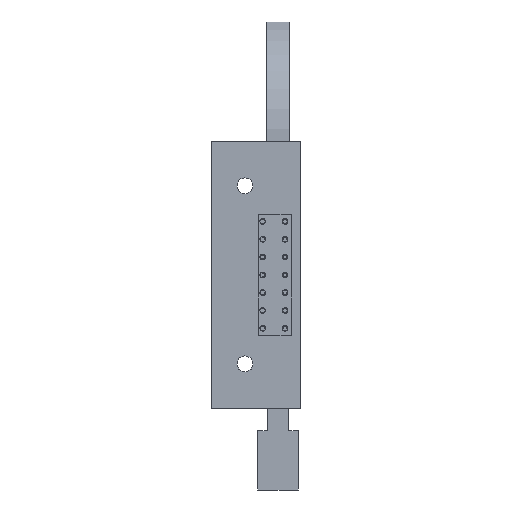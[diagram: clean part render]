
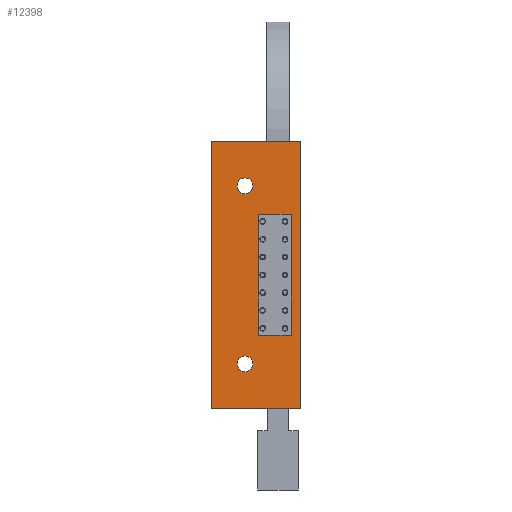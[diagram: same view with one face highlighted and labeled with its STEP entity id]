
A CAD part, front view. The second image highlights one B-rep face of the part: STEP entity #12398.
In plain terms, the highlighted planar face has unit normal (0, -1, 0).
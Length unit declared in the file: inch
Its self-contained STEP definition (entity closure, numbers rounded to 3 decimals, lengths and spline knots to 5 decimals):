
#17 = DIRECTION ( 'NONE',  ( -1., 0., 0. ) ) ;
#39 = CARTESIAN_POINT ( 'NONE',  ( 0.264, -0.25, 0.339 ) ) ;
#230 = EDGE_CURVE ( 'NONE', #10812, #14088, #12234, .T. ) ;
#245 = ORIENTED_EDGE ( 'NONE', *, *, #598, .T. ) ;
#277 = DIRECTION ( 'NONE',  ( 0., 0., -1. ) ) ;
#308 = EDGE_CURVE ( 'NONE', #588, #588, #11935, .T. ) ;
#374 = CARTESIAN_POINT ( 'NONE',  ( 0.264, -0.25, 0.339 ) ) ;
#394 = EDGE_CURVE ( 'NONE', #6607, #6607, #11336, .T. ) ;
#406 = DIRECTION ( 'NONE',  ( 0., 0., 1. ) ) ;
#409 = EDGE_CURVE ( 'NONE', #7550, #5255, #11319, .T. ) ;
#410 = DIRECTION ( 'NONE',  ( 0., 1., 0. ) ) ;
#430 = CARTESIAN_POINT ( 'NONE',  ( 0.188, -0.25, -0.5 ) ) ;
#465 = EDGE_CURVE ( 'NONE', #4296, #7550, #10970, .T. ) ;
#505 = EDGE_CURVE ( 'NONE', #7386, #4296, #10810, .T. ) ;
#545 = EDGE_CURVE ( 'NONE', #5255, #7386, #10425, .T. ) ;
#571 = EDGE_CURVE ( 'NONE', #7188, #14088, #10012, .T. ) ;
#588 = VERTEX_POINT ( 'NONE', #1038 ) ;
#594 = EDGE_CURVE ( 'NONE', #2364, #10812, #10082, .T. ) ;
#598 = EDGE_CURVE ( 'NONE', #2364, #7188, #10094, .T. ) ;
#775 = FACE_BOUND ( 'NONE', #7815, .T. ) ;
#1038 = CARTESIAN_POINT ( 'NONE',  ( 0.188, -0.25, 0.5445 ) ) ;
#1090 = DIRECTION ( 'NONE',  ( 0., 0., 1. ) ) ;
#1125 = DIRECTION ( 'NONE',  ( 0., 1., 0. ) ) ;
#1164 = CARTESIAN_POINT ( 'NONE',  ( 0.188, -0.25, 0.5 ) ) ;
#1813 = AXIS2_PLACEMENT_3D ( 'NONE', #430, #410, #406 ) ;
#1826 = DIRECTION ( 'NONE',  ( -1., 0., 0. ) ) ;
#1851 = CARTESIAN_POINT ( 'NONE',  ( 0.5, -0.25, -0.75 ) ) ;
#2022 = AXIS2_PLACEMENT_3D ( 'NONE', #1164, #1125, #1090 ) ;
#2364 = VERTEX_POINT ( 'NONE', #10731 ) ;
#3364 = CARTESIAN_POINT ( 'NONE',  ( 0.5, -0.25, 0.75 ) ) ;
#4229 = DIRECTION ( 'NONE',  ( -1., 0., 0. ) ) ;
#4296 = VERTEX_POINT ( 'NONE', #12600 ) ;
#4432 = DIRECTION ( 'NONE',  ( 0., 0., -1. ) ) ;
#4589 = DIRECTION ( 'NONE',  ( 0., 0., -1. ) ) ;
#4918 = CARTESIAN_POINT ( 'NONE',  ( 0.5, -0.25, -0.75 ) ) ;
#5255 = VERTEX_POINT ( 'NONE', #12299 ) ;
#5603 = ORIENTED_EDGE ( 'NONE', *, *, #545, .F. ) ;
#5681 = ORIENTED_EDGE ( 'NONE', *, *, #409, .F. ) ;
#5694 = ORIENTED_EDGE ( 'NONE', *, *, #230, .F. ) ;
#5735 = ORIENTED_EDGE ( 'NONE', *, *, #465, .F. ) ;
#5837 = ORIENTED_EDGE ( 'NONE', *, *, #505, .F. ) ;
#5936 = ORIENTED_EDGE ( 'NONE', *, *, #394, .T. ) ;
#5961 = DIRECTION ( 'NONE',  ( 0., 0., 1. ) ) ;
#5977 = DIRECTION ( 'NONE',  ( 0., 1., 0. ) ) ;
#5982 = CARTESIAN_POINT ( 'NONE',  ( 0.5, -0.25, -0.75 ) ) ;
#6011 = ORIENTED_EDGE ( 'NONE', *, *, #571, .T. ) ;
#6045 = CARTESIAN_POINT ( 'NONE',  ( 0.5, -0.25, -0.75 ) ) ;
#6092 = ORIENTED_EDGE ( 'NONE', *, *, #594, .F. ) ;
#6173 = AXIS2_PLACEMENT_3D ( 'NONE', #5982, #5977, #5961 ) ;
#6328 = PLANE ( 'NONE',  #6173 ) ;
#6448 = CARTESIAN_POINT ( 'NONE',  ( 0., -0.25, -0.75 ) ) ;
#6607 = VERTEX_POINT ( 'NONE', #10054 ) ;
#6615 = DIRECTION ( 'NONE',  ( 0., 0., 1. ) ) ;
#7105 = FACE_BOUND ( 'NONE', #7713, .T. ) ;
#7188 = VERTEX_POINT ( 'NONE', #9170 ) ;
#7386 = VERTEX_POINT ( 'NONE', #9100 ) ;
#7550 = VERTEX_POINT ( 'NONE', #14045 ) ;
#7651 = EDGE_LOOP ( 'NONE', ( #7738 ) ) ;
#7713 = EDGE_LOOP ( 'NONE', ( #5603, #5681, #5735, #5837 ) ) ;
#7738 = ORIENTED_EDGE ( 'NONE', *, *, #308, .T. ) ;
#7815 = EDGE_LOOP ( 'NONE', ( #5936 ) ) ;
#7869 = EDGE_LOOP ( 'NONE', ( #6011, #5694, #6092, #245 ) ) ;
#9100 = CARTESIAN_POINT ( 'NONE',  ( 0.448, -0.25, -0.339 ) ) ;
#9170 = CARTESIAN_POINT ( 'NONE',  ( 0., -0.25, 0.75 ) ) ;
#9456 = FACE_OUTER_BOUND ( 'NONE', #7869, .T. ) ;
#9943 = VECTOR ( 'NONE', #4229, 39.37008 ) ;
#9984 = CARTESIAN_POINT ( 'NONE',  ( 0.448, -0.25, 0.339 ) ) ;
#9993 = VECTOR ( 'NONE', #4589, 39.37008 ) ;
#10012 = LINE ( 'NONE', #6448, #9993 ) ;
#10054 = CARTESIAN_POINT ( 'NONE',  ( 0.188, -0.25, -0.4555 ) ) ;
#10082 = LINE ( 'NONE', #6045, #10259 ) ;
#10094 = LINE ( 'NONE', #3364, #9943 ) ;
#10259 = VECTOR ( 'NONE', #4432, 39.37008 ) ;
#10272 = VECTOR ( 'NONE', #14053, 39.37008 ) ;
#10425 = LINE ( 'NONE', #13351, #10272 ) ;
#10625 = VECTOR ( 'NONE', #6615, 39.37008 ) ;
#10731 = CARTESIAN_POINT ( 'NONE',  ( 0.5, -0.25, 0.75 ) ) ;
#10810 = LINE ( 'NONE', #9984, #10625 ) ;
#10812 = VERTEX_POINT ( 'NONE', #4918 ) ;
#10862 = VECTOR ( 'NONE', #17, 39.37008 ) ;
#10970 = LINE ( 'NONE', #39, #10862 ) ;
#11319 = LINE ( 'NONE', #374, #11346 ) ;
#11336 = CIRCLE ( 'NONE', #1813, 0.0445 ) ;
#11346 = VECTOR ( 'NONE', #277, 39.37008 ) ;
#11935 = CIRCLE ( 'NONE', #2022, 0.0445 ) ;
#12066 = CARTESIAN_POINT ( 'NONE',  ( 0., -0.25, -0.75 ) ) ;
#12234 = LINE ( 'NONE', #1851, #12375 ) ;
#12267 = FACE_BOUND ( 'NONE', #7651, .T. ) ;
#12299 = CARTESIAN_POINT ( 'NONE',  ( 0.264, -0.25, -0.339 ) ) ;
#12375 = VECTOR ( 'NONE', #1826, 39.37008 ) ;
#12398 = ADVANCED_FACE ( 'NONE', ( #7105, #775, #12267, #9456 ), #6328, .F. ) ;
#12600 = CARTESIAN_POINT ( 'NONE',  ( 0.448, -0.25, 0.339 ) ) ;
#13351 = CARTESIAN_POINT ( 'NONE',  ( 0.264, -0.25, -0.339 ) ) ;
#14045 = CARTESIAN_POINT ( 'NONE',  ( 0.264, -0.25, 0.339 ) ) ;
#14053 = DIRECTION ( 'NONE',  ( 1., 0., 0. ) ) ;
#14088 = VERTEX_POINT ( 'NONE', #12066 ) ;
